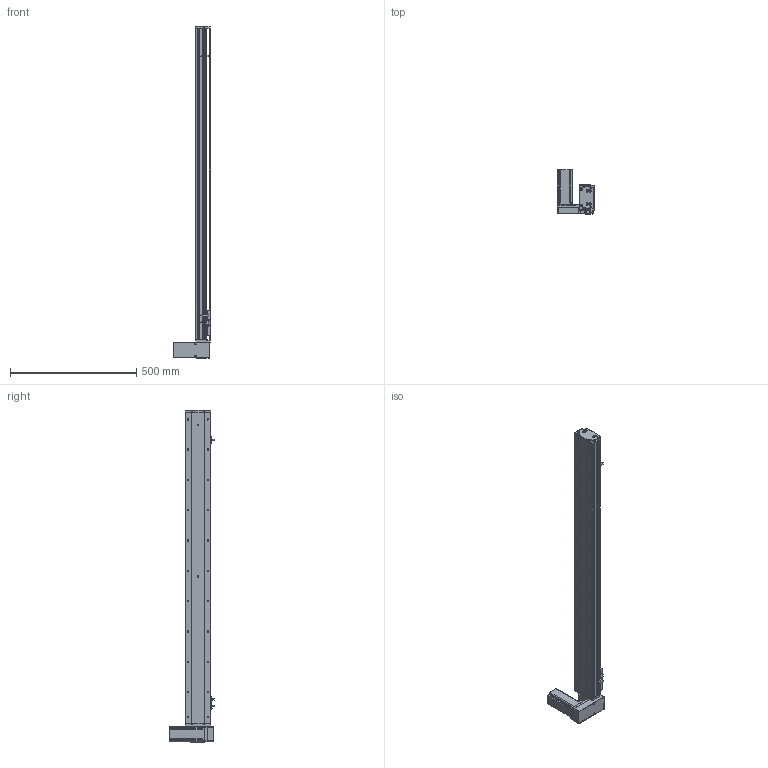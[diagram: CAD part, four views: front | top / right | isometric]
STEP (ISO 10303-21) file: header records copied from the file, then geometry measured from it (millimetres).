
FILE_DESCRIPTION (( 'STEP AP214' ), '1' );
FILE_NAME ('KSD100B-S1050-MRD-CM.STEP', '2019-11-11T08:06:46', ( '微软用户' ), ( '微软中国' ), 'SwSTEP 2.0', 'SolidWorks 2014', '' );
FILE_SCHEMA (( 'AUTOMOTIVE_DESIGN' ));
Length unit declared in the file: millimetre
Products named in the file (12): 悵誘欶奻狟殏; 100宽马达安装板连板上下折丝杆同步带; 台达ECMA－C20604AS伺服电机; U倰嫖萇EEㄜSX672; 覜茼え100遵圉猾敕; 100宽防尘板1050行程-同步带; 100宽马达安装板同步带右; 100宽同步带安装板半封闭; 100宽马达安装板同步带; 100遵傷啣肮祭湍; 100宽底板半封闭同步带1050行程; KSD100B-S1050-MRD-CM
Assembly tree (13 placements, depth 2):
  KSD100B-S1050-MRD-CM
    100宽底板半封闭同步带1050行程
    100遵傷啣肮祭湍
    100宽马达安装板同步带
    100宽同步带安装板半封闭
    100宽马达安装板同步带右
    100宽防尘板1050行程-同步带
    覜茼え100遵圉猾敕
    U倰嫖萇EEㄜSX672  x3
    台达ECMA－C20604AS伺服电机
    100宽马达安装板连板上下折丝杆同步带
    悵誘欶奻狟殏
Bounding box: 148 x 174.7 x 1315 mm (x, y, z)
Volume: 2970148.2 mm3; surface area: 989316.3 mm2
Topology: 14 solids, 14 shells, 1495 faces, 4214 edges, 2677 vertices
Faces by surface type: cylinder 757, plane 595, cone 143
Entity records: 53475 total; most frequent: CARTESIAN_POINT 10748, DIRECTION 7314, ORIENTED_EDGE 7048, EDGE_CURVE 3524, AXIS2_PLACEMENT_3D 2677, VERTEX_POINT 2301, VECTOR 1960, LINE 1960
